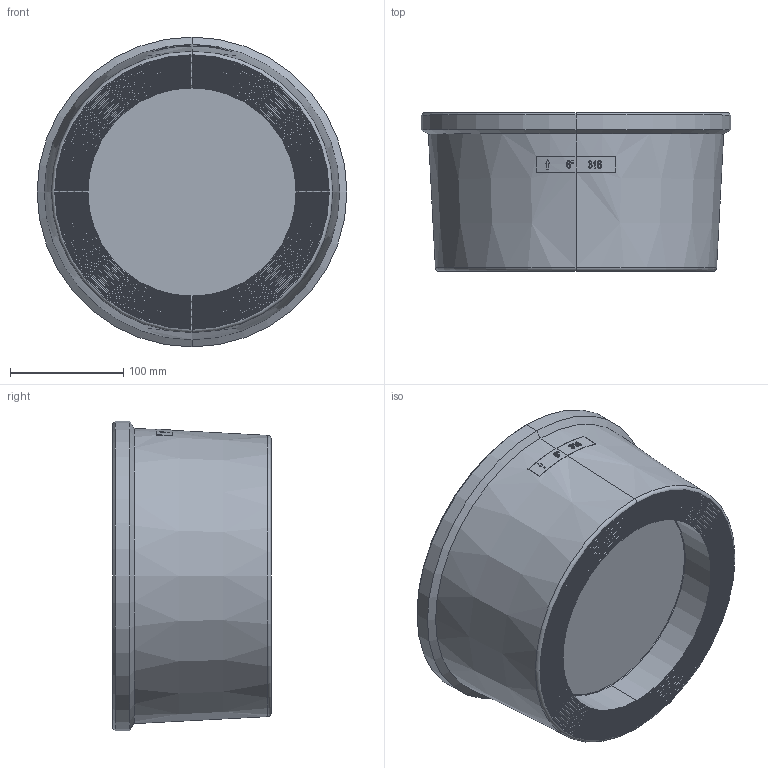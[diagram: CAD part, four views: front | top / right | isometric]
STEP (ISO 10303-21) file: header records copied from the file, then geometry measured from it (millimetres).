
FILE_DESCRIPTION (( 'STEP AP203' ), '1' );
FILE_NAME ('MV-53 DN200-000.STEP', '2021-10-15T07:09:55', ( '' ), ( '' ), 'SwSTEP 2.0', 'SolidWorks 2012', '' );
FILE_SCHEMA (( 'CONFIG_CONTROL_DESIGN' ));
Length unit declared in the file: millimetre
Products named in the file (5): DN200 SPRING COVER; DN200 SPRING; MV-53  DN200-000; DN200 DOSC; DN200 BODY
Assembly tree (4 placements, depth 2):
  MV-53  DN200-000
    DN200 DOSC
    DN200 BODY
    DN200 SPRING COVER
    DN200 SPRING
Bounding box: 274 x 140 x 274 mm (x, y, z)
Volume: 2068379.9 mm3; surface area: 451074.4 mm2
Topology: 4 solids, 4 shells, 363 faces, 808 edges, 528 vertices
Faces by surface type: torus 134, plane 121, bspline 45, cylinder 42, cone 21
Entity records: 17977 total; most frequent: CARTESIAN_POINT 9276, DIRECTION 1836, ORIENTED_EDGE 1616, AXIS2_PLACEMENT_3D 840, EDGE_CURVE 808, VERTEX_POINT 528, CIRCLE 515, EDGE_LOOP 448
